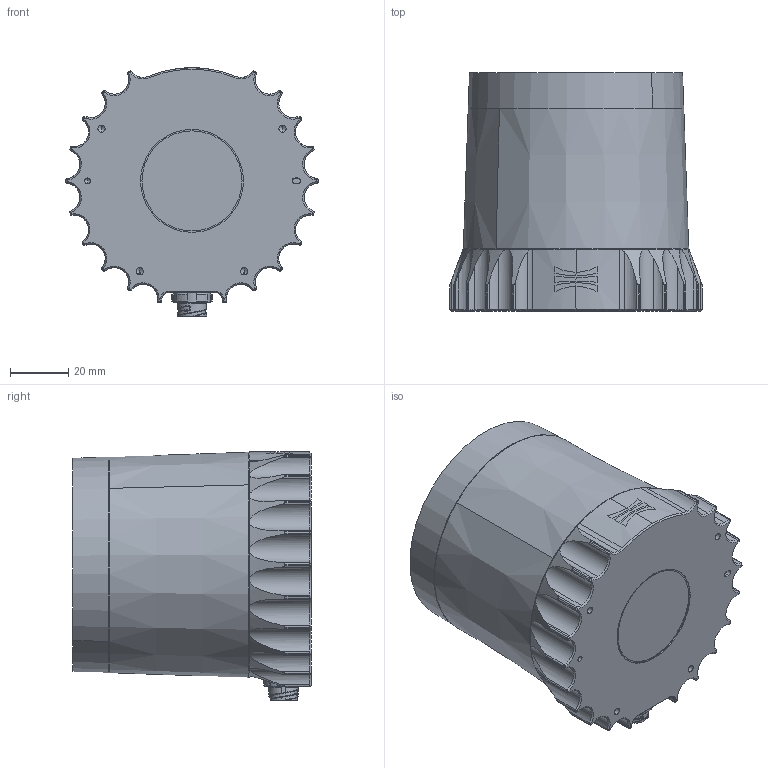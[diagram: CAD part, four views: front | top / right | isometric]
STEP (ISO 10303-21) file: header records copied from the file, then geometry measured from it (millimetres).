
FILE_DESCRIPTION (( 'STEP AP214' ), '1' );
FILE_NAME ('OS1MAX-08 b-cccc-ddddd-XX-fff-ggg.STEP', '2026-05-01T20:25:50', ( '' ), ( '' ), 'SwSTEP 2.0', 'SolidWorks 2022', '' );
FILE_SCHEMA (( 'AUTOMOTIVE_DESIGN' ));
Length unit declared in the file: millimetre
Products named in the file (1): OS1MAX-08 b-cccc-ddddd-XX-fff-ggg
Bounding box: 87 x 82.11 x 85.67 mm (x, y, z)
Volume: 191967.9 mm3; surface area: 52113.2 mm2
Topology: 1 solids, 2 shells, 1192 faces, 3277 edges, 2041 vertices
Faces by surface type: bspline 815, cylinder 160, cone 148, plane 69
Entity records: 76640 total; most frequent: CARTESIAN_POINT 41658, ORIENTED_EDGE 6382, EDGE_CURVE 3191, VERTEX_POINT 2041, DIRECTION 1921, B_SPLINE_CURVE_WITH_KNOTS 1864, EDGE_LOOP 1282, UNCERTAINTY_MEASURE_WITH_UNIT 1195
